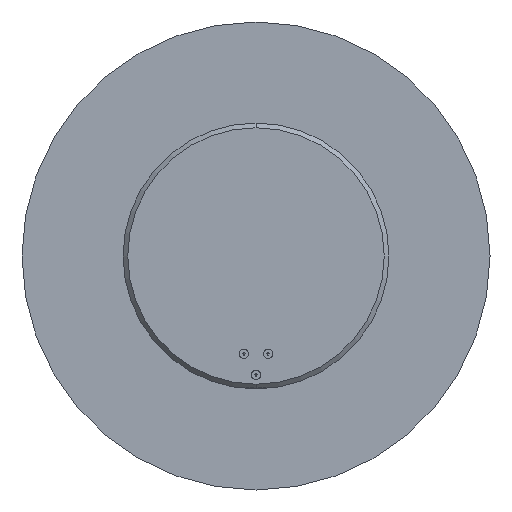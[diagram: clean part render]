
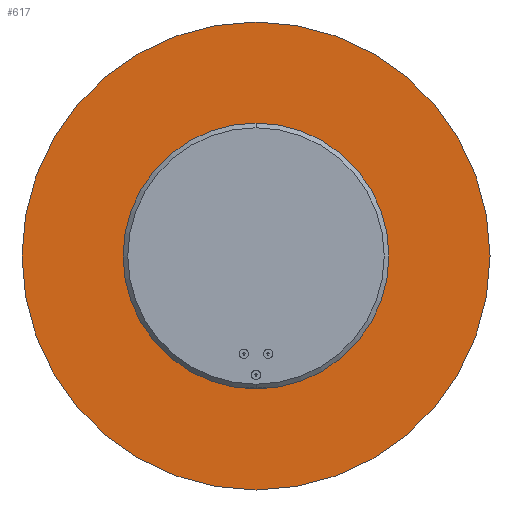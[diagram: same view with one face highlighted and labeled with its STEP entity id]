
A CAD part, front view. The second image highlights one B-rep face of the part: STEP entity #617.
In plain terms, the highlighted planar face has unit normal (0, -1, 0).
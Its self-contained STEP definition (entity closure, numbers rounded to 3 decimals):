
#28 = EDGE_CURVE ( 'NONE', #6138, #2230, #6230, .T. ) ;
#109 = DIRECTION ( 'NONE',  ( 0., 0., 1. ) ) ;
#215 = CARTESIAN_POINT ( 'NONE',  ( 0., 0., 0. ) ) ;
#273 = AXIS2_PLACEMENT_3D ( 'NONE', #215, #1259, #707 ) ;
#497 = AXIS2_PLACEMENT_3D ( 'NONE', #3696, #3216, #109 ) ;
#617 = ADVANCED_FACE ( 'NONE', ( #3385 ), #3354, .F. ) ;
#707 = DIRECTION ( 'NONE',  ( 0., 0., 1. ) ) ;
#1059 = DIRECTION ( 'NONE',  ( 0., 0., 1. ) ) ;
#1259 = DIRECTION ( 'NONE',  ( 0., 1., 0. ) ) ;
#1462 = CARTESIAN_POINT ( 'NONE',  ( 0., 0., -500. ) ) ;
#1963 = EDGE_LOOP ( 'NONE', ( #5425, #3132 ) ) ;
#2230 = VERTEX_POINT ( 'NONE', #1462 ) ;
#2689 = CARTESIAN_POINT ( 'NONE',  ( 0., 0., 0. ) ) ;
#2904 = CARTESIAN_POINT ( 'NONE',  ( 0., 0., 500. ) ) ;
#3132 = ORIENTED_EDGE ( 'NONE', *, *, #28, .F. ) ;
#3216 = DIRECTION ( 'NONE',  ( 0., 1., 0. ) ) ;
#3354 = PLANE ( 'NONE',  #273 ) ;
#3385 = FACE_OUTER_BOUND ( 'NONE', #1963, .T. ) ;
#3653 = CIRCLE ( 'NONE', #5009, 500. ) ;
#3696 = CARTESIAN_POINT ( 'NONE',  ( 0., 0., 0. ) ) ;
#4831 = DIRECTION ( 'NONE',  ( 0., 1., 0. ) ) ;
#5009 = AXIS2_PLACEMENT_3D ( 'NONE', #2689, #4831, #1059 ) ;
#5219 = EDGE_CURVE ( 'NONE', #2230, #6138, #3653, .T. ) ;
#5425 = ORIENTED_EDGE ( 'NONE', *, *, #5219, .F. ) ;
#6138 = VERTEX_POINT ( 'NONE', #2904 ) ;
#6230 = CIRCLE ( 'NONE', #497, 500. ) ;
